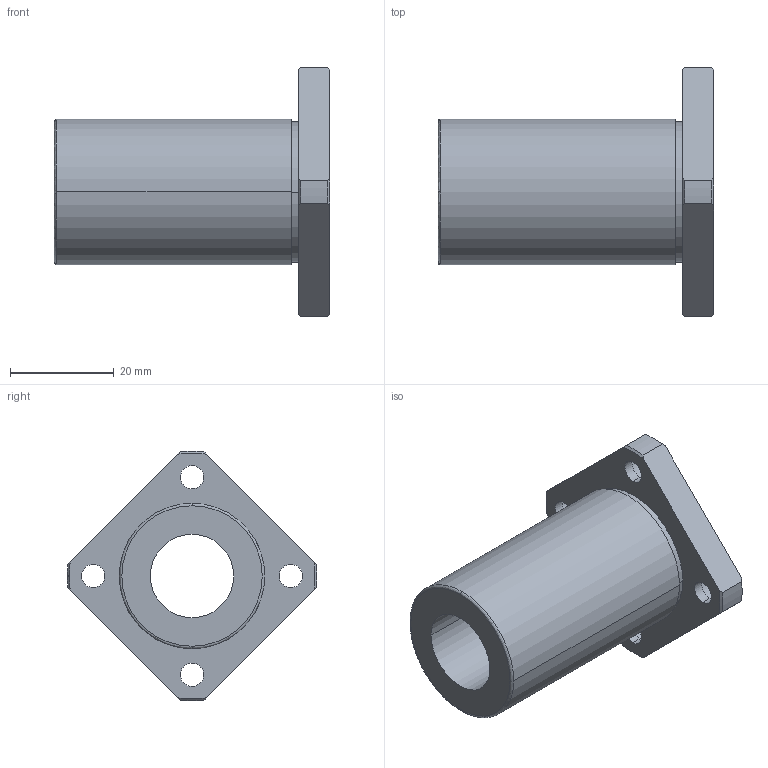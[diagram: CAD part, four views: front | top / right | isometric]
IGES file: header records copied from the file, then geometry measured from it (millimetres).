
Start section: 3D InterOp IGES (Version 21 0 1), Spatial Corp. Copyright (c) 1999-2007.
Global section: file name: NFES-16VM.igs; native system: Spatial Corp.; preprocessor: 3D InterOp GENERIC/IGES 3.0; author: Noname; organization: Noname; date: 20220308.101609; units: millimetre
Bounding box: 53 x 47.99 x 47.98 mm (x, y, z)
Surface area: 10359.4 mm2 (no closed solid volume)
Topology: 0 solids, 0 shells, 51 faces, 254 edges, 254 vertices
Faces by surface type: revolution 39, extrusion 12
